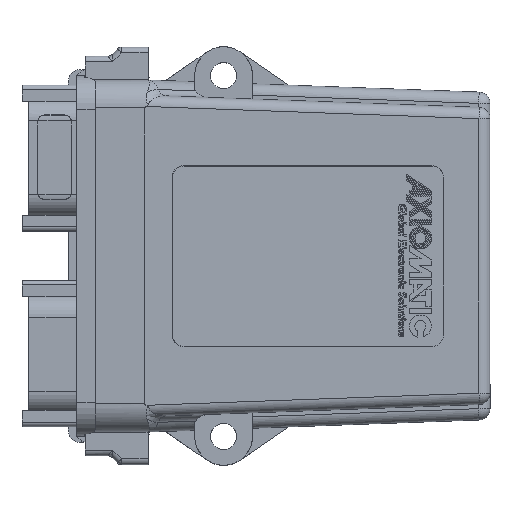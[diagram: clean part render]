
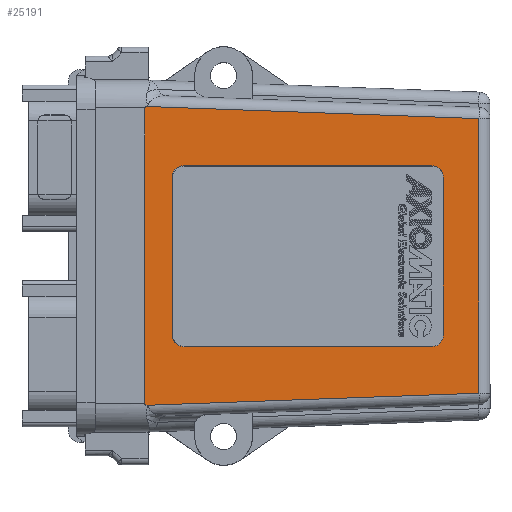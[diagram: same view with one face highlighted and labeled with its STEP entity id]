
A CAD part, top view. The second image highlights one B-rep face of the part: STEP entity #25191.
In plain terms, the highlighted planar face has unit normal (0.019, 0, 1).
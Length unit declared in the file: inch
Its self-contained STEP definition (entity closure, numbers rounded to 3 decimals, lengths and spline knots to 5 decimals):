
#34=ELLIPSE($,#26485,16.5866,0.312);
#35=ELLIPSE($,#26486,16.5866,0.312);
#303=FACE_BOUND($,#3307,.T.);
#304=FACE_BOUND($,#3308,.T.);
#666=B_SPLINE_CURVE_WITH_KNOTS($,3,(#38984,#38985,#38986,#38987,#38988,
#38989,#38990),.UNSPECIFIED.,.F.,.F.,(4,3,4),(-0.00111,0.,0.01135),
 .UNSPECIFIED.);
#667=B_SPLINE_CURVE_WITH_KNOTS($,3,(#38996,#38997,#38998,#38999,#39000,
#39001),.UNSPECIFIED.,.F.,.F.,(4,2,4),(0.42593,0.44336,
0.44513),.UNSPECIFIED.);
#3307=EDGE_LOOP($,(#19638,#19639,#19640,#19641,#19642,#19643,#19644,#19645));
#3308=EDGE_LOOP($,(#19646,#19647,#19648,#19649,#19650,#19651,#19652,#19653));
#5691=LINE($,#38964,#8395);
#5692=LINE($,#38968,#8396);
#5693=LINE($,#38972,#8397);
#5694=LINE($,#38975,#8398);
#5695=LINE($,#38980,#8399);
#5696=LINE($,#38991,#8400);
#5697=LINE($,#38993,#8401);
#5698=LINE($,#38995,#8402);
#8395=VECTOR($,#30524,2.75);
#8396=VECTOR($,#30527,1.75);
#8397=VECTOR($,#30530,2.75);
#8398=VECTOR($,#30533,1.75);
#8399=VECTOR($,#30536,3.28);
#8400=VECTOR($,#30539,3.67257);
#8401=VECTOR($,#30540,3.04372);
#8402=VECTOR($,#30541,3.67257);
#9349=CIRCLE($,#26481,0.125);
#9350=CIRCLE($,#26482,0.125);
#9351=CIRCLE($,#26483,0.125);
#9352=CIRCLE($,#26484,0.125);
#11020=VERTEX_POINT($,#38897);
#11040=VERTEX_POINT($,#38960);
#11041=VERTEX_POINT($,#38961);
#11042=VERTEX_POINT($,#38963);
#11043=VERTEX_POINT($,#38965);
#11044=VERTEX_POINT($,#38967);
#11045=VERTEX_POINT($,#38969);
#11046=VERTEX_POINT($,#38971);
#11047=VERTEX_POINT($,#38973);
#11048=VERTEX_POINT($,#38976);
#11049=VERTEX_POINT($,#38977);
#11050=VERTEX_POINT($,#38979);
#11051=VERTEX_POINT($,#38981);
#11052=VERTEX_POINT($,#38983);
#11053=VERTEX_POINT($,#38992);
#11054=VERTEX_POINT($,#38994);
#14052=EDGE_CURVE($,#11040,#11041,#9349,.T.);
#14053=EDGE_CURVE($,#11041,#11042,#5691,.T.);
#14054=EDGE_CURVE($,#11042,#11043,#9350,.T.);
#14055=EDGE_CURVE($,#11043,#11044,#5692,.T.);
#14056=EDGE_CURVE($,#11044,#11045,#9351,.T.);
#14057=EDGE_CURVE($,#11045,#11046,#5693,.T.);
#14058=EDGE_CURVE($,#11046,#11047,#9352,.T.);
#14059=EDGE_CURVE($,#11047,#11040,#5694,.T.);
#14060=EDGE_CURVE($,#11048,#11049,#34,.T.);
#14061=EDGE_CURVE($,#11048,#11050,#5695,.T.);
#14062=EDGE_CURVE($,#11051,#11050,#35,.T.);
#14063=EDGE_CURVE($,#11052,#11051,#666,.T.);
#14064=EDGE_CURVE($,#11020,#11052,#5696,.T.);
#14065=EDGE_CURVE($,#11053,#11020,#5697,.T.);
#14066=EDGE_CURVE($,#11054,#11053,#5698,.T.);
#14067=EDGE_CURVE($,#11054,#11049,#667,.F.);
#19638=ORIENTED_EDGE($,*,*,#14052,.T.);
#19639=ORIENTED_EDGE($,*,*,#14053,.T.);
#19640=ORIENTED_EDGE($,*,*,#14054,.T.);
#19641=ORIENTED_EDGE($,*,*,#14055,.T.);
#19642=ORIENTED_EDGE($,*,*,#14056,.T.);
#19643=ORIENTED_EDGE($,*,*,#14057,.T.);
#19644=ORIENTED_EDGE($,*,*,#14058,.T.);
#19645=ORIENTED_EDGE($,*,*,#14059,.T.);
#19646=ORIENTED_EDGE($,*,*,#14060,.F.);
#19647=ORIENTED_EDGE($,*,*,#14061,.T.);
#19648=ORIENTED_EDGE($,*,*,#14062,.F.);
#19649=ORIENTED_EDGE($,*,*,#14063,.F.);
#19650=ORIENTED_EDGE($,*,*,#14064,.F.);
#19651=ORIENTED_EDGE($,*,*,#14065,.F.);
#19652=ORIENTED_EDGE($,*,*,#14066,.F.);
#19653=ORIENTED_EDGE($,*,*,#14067,.T.);
#22757=PLANE($,#26480);
#25191=ADVANCED_FACE($,(#303,#304),#22757,.F.);
#26480=AXIS2_PLACEMENT_3D($,#38959,#30520,#30521);
#26481=AXIS2_PLACEMENT_3D($,#38962,#30522,#30523);
#26482=AXIS2_PLACEMENT_3D($,#38966,#30525,#30526);
#26483=AXIS2_PLACEMENT_3D($,#38970,#30528,#30529);
#26484=AXIS2_PLACEMENT_3D($,#38974,#30531,#30532);
#26485=AXIS2_PLACEMENT_3D($,#38978,#30534,#30535);
#26486=AXIS2_PLACEMENT_3D($,#38982,#30537,#30538);
#30520=DIRECTION('center_axis',(-0.019,0.,
-1.));
#30521=DIRECTION('ref_axis',(1.,0.,-0.019));
#30522=DIRECTION('center_axis',(-0.019,0.,
-1.));
#30523=DIRECTION('ref_axis',(0.,1.,0.));
#30524=DIRECTION($,(-1.,0.,0.019));
#30525=DIRECTION('center_axis',(-0.019,0.,
-1.));
#30526=DIRECTION('ref_axis',(1.,0.,-0.019));
#30527=DIRECTION($,(0.,1.,0.));
#30528=DIRECTION('center_axis',(-0.019,0.,
-1.));
#30529=DIRECTION('ref_axis',(0.,-1.,0.));
#30530=DIRECTION($,(1.,0.,-0.019));
#30531=DIRECTION('center_axis',(-0.019,0.,
-1.));
#30532=DIRECTION('ref_axis',(-1.,0.,
0.019));
#30533=DIRECTION($,(0.,-1.,0.));
#30534=DIRECTION('center_axis',(-0.019,0.,
-1.));
#30535=DIRECTION('ref_axis',(-1.,0.,
0.019));
#30536=DIRECTION($,(0.,-1.,0.));
#30537=DIRECTION('center_axis',(-0.019,0.,
-1.));
#30538=DIRECTION('ref_axis',(-1.,0.,
0.019));
#30539=DIRECTION($,(-0.999,-0.036,0.019));
#30540=DIRECTION($,(0.,-1.,0.));
#30541=DIRECTION($,(0.999,-0.036,-0.019));
#38897=CARTESIAN_POINT('',(6.02435,2.40314,0.89931));
#38959=CARTESIAN_POINT('Origin',(6.147,3.925,0.897));
#38960=CARTESIAN_POINT('',(5.62442,3.05,0.90683));
#38961=CARTESIAN_POINT('',(5.49944,2.925,0.90918));
#38962=CARTESIAN_POINT('Origin',(5.49944,3.05,0.90918));
#38963=CARTESIAN_POINT('',(2.74993,2.925,0.96091));
#38964=CARTESIAN_POINT($,(5.82322,2.925,0.90309));
#38965=CARTESIAN_POINT('',(2.62495,3.05,0.96326));
#38966=CARTESIAN_POINT('Origin',(2.74993,3.05,0.96091));
#38967=CARTESIAN_POINT('',(2.62495,4.8,0.96326));
#38968=CARTESIAN_POINT($,(2.62495,3.4875,0.96326));
#38969=CARTESIAN_POINT('',(2.74993,4.925,0.96091));
#38970=CARTESIAN_POINT('Origin',(2.74993,4.8,0.96091));
#38971=CARTESIAN_POINT('',(5.49944,4.925,0.90918));
#38972=CARTESIAN_POINT($,(4.44847,4.925,0.92896));
#38973=CARTESIAN_POINT('',(5.62442,4.8,0.90683));
#38974=CARTESIAN_POINT('Origin',(5.49944,4.8,0.90918));
#38975=CARTESIAN_POINT($,(5.62442,4.3625,0.90683));
#38976=CARTESIAN_POINT('',(2.32,5.565,0.969));
#38977=CARTESIAN_POINT('',(2.35158,5.58425,0.96841));
#38978=CARTESIAN_POINT('Origin',(18.90367,5.565,0.657));
#38979=CARTESIAN_POINT('',(2.32,2.285,0.969));
#38980=CARTESIAN_POINT($,(2.32,4.901,0.969));
#38981=CARTESIAN_POINT('',(2.35158,2.26575,0.96841));
#38982=CARTESIAN_POINT('Origin',(18.90367,2.285,0.657));
#38983=CARTESIAN_POINT('',(2.35487,2.26938,0.96834));
#38984=CARTESIAN_POINT('Ctrl Pts',(2.35487,2.26938,0.96834));
#38985=CARTESIAN_POINT('Ctrl Pts',(2.35477,2.26927,0.96835));
#38986=CARTESIAN_POINT('Ctrl Pts',(2.35467,2.26917,0.96835));
#38987=CARTESIAN_POINT('Ctrl Pts',(2.35457,2.26906,0.96835));
#38988=CARTESIAN_POINT('Ctrl Pts',(2.35356,2.26797,0.96837));
#38989=CARTESIAN_POINT('Ctrl Pts',(2.35256,2.26686,0.96839));
#38990=CARTESIAN_POINT('Ctrl Pts',(2.35158,2.26576,0.96841));
#38991=CARTESIAN_POINT($,(5.25053,2.37493,0.91387));
#38992=CARTESIAN_POINT('',(6.02435,5.44686,0.89931));
#38993=CARTESIAN_POINT($,(6.02435,3.925,0.89931));
#38994=CARTESIAN_POINT('',(2.35487,5.58062,0.96834));
#38995=CARTESIAN_POINT($,(5.25053,5.47507,0.91387));
#38996=CARTESIAN_POINT('Ctrl Pts',(2.35158,5.58425,0.96841));
#38997=CARTESIAN_POINT('Ctrl Pts',(2.3526,5.5831,0.96839));
#38998=CARTESIAN_POINT('Ctrl Pts',(2.35359,5.582,0.96837));
#38999=CARTESIAN_POINT('Ctrl Pts',(2.35467,5.58083,0.96835));
#39000=CARTESIAN_POINT('Ctrl Pts',(2.35477,5.58073,0.96835));
#39001=CARTESIAN_POINT('Ctrl Pts',(2.35487,5.58062,0.96834));
